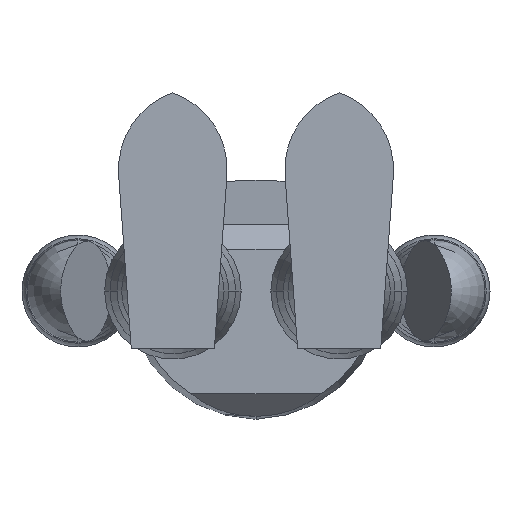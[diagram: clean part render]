
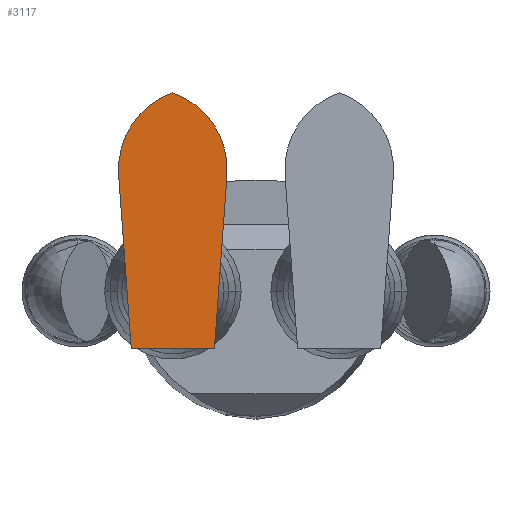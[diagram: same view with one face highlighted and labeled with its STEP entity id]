
A CAD part, front view. The second image highlights one B-rep face of the part: STEP entity #3117.
In plain terms, the highlighted planar face has unit normal (0, -1, 0).
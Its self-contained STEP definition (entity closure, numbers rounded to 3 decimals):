
#314 = CARTESIAN_POINT ( 'NONE',  ( -103.952, -63.25, -48.683 ) ) ;
#315 = CARTESIAN_POINT ( 'NONE',  ( -103.952, -63.25, 48.683 ) ) ;
#316 = CARTESIAN_POINT ( 'NONE',  ( 51.75, -63.25, 37.375 ) ) ;
#421 = CARTESIAN_POINT ( 'NONE',  ( 51.75, -63.25, -37.375 ) ) ;
#451 = DIRECTION ( 'NONE',  ( 0., 0., 1. ) ) ;
#452 = VECTOR ( 'NONE', #451, 1000. ) ;
#453 = CARTESIAN_POINT ( 'NONE',  ( 51.75, -63.25, 0. ) ) ;
#454 = LINE ( 'NONE', #453, #452 ) ;
#460 = DIRECTION ( 'NONE',  ( 0., 0., -1. ) ) ;
#461 = DIRECTION ( 'NONE',  ( 0., 1., 0. ) ) ;
#462 = CARTESIAN_POINT ( 'NONE',  ( -109.25, -63.25, -24.268 ) ) ;
#463 = AXIS2_PLACEMENT_3D ( 'NONE', #462, #461, #460 ) ;
#464 = CIRCLE ( 'NONE', #463, 73.143 ) ;
#466 = CARTESIAN_POINT ( 'NONE',  ( -178.25, -63.25, 0. ) ) ;
#467 = DIRECTION ( 'NONE',  ( 0., 0., 1. ) ) ;
#468 = DIRECTION ( 'NONE',  ( 0., -1., 0. ) ) ;
#469 = CARTESIAN_POINT ( 'NONE',  ( -109.25, -63.25, 24.268 ) ) ;
#470 = AXIS2_PLACEMENT_3D ( 'NONE', #469, #468, #467 ) ;
#471 = DIRECTION ( 'NONE',  ( 0., 0., 1. ) ) ;
#472 = DIRECTION ( 'NONE',  ( 0., 1., 0. ) ) ;
#473 = AXIS2_PLACEMENT_3D ( 'NONE', #475, #472, #471 ) ;
#474 = CIRCLE ( 'NONE', #470, 73.143 ) ;
#475 = CARTESIAN_POINT ( 'NONE',  ( -109.25, -63.25, 24.268 ) ) ;
#476 = PLANE ( 'NONE',  #473 ) ;
#477 = FACE_OUTER_BOUND ( 'NONE', #3116, .T. ) ;
#503 = DIRECTION ( 'NONE',  ( 0.997, 0., -0.072 ) ) ;
#504 = VECTOR ( 'NONE', #503, 1000. ) ;
#505 = CARTESIAN_POINT ( 'NONE',  ( 51.75, -63.25, 37.375 ) ) ;
#506 = LINE ( 'NONE', #505, #504 ) ;
#507 = DIRECTION ( 'NONE',  ( 0.997, 0., 0.072 ) ) ;
#508 = VECTOR ( 'NONE', #507, 1000. ) ;
#509 = CARTESIAN_POINT ( 'NONE',  ( 51.75, -63.25, -37.375 ) ) ;
#510 = LINE ( 'NONE', #509, #508 ) ;
#3090 = VERTEX_POINT ( 'NONE', #421 ) ;
#3095 = EDGE_CURVE ( 'NONE', #3112, #3090, #510, .T. ) ;
#3097 = EDGE_CURVE ( 'NONE', #3111, #3110, #506, .T. ) ;
#3110 = VERTEX_POINT ( 'NONE', #316 ) ;
#3111 = VERTEX_POINT ( 'NONE', #315 ) ;
#3112 = VERTEX_POINT ( 'NONE', #314 ) ;
#3116 = EDGE_LOOP ( 'NONE', ( #3152, #3150, #3157, #3156, #3154 ) ) ;
#3117 = ADVANCED_FACE ( 'NONE', ( #477 ), #476, .F. ) ;
#3119 = EDGE_CURVE ( 'NONE', #3120, #3112, #474, .T. ) ;
#3120 = VERTEX_POINT ( 'NONE', #466 ) ;
#3121 = EDGE_CURVE ( 'NONE', #3120, #3111, #464, .T. ) ;
#3127 = EDGE_CURVE ( 'NONE', #3090, #3110, #454, .T. ) ;
#3150 = ORIENTED_EDGE ( 'NONE', *, *, #3097, .F. ) ;
#3152 = ORIENTED_EDGE ( 'NONE', *, *, #3127, .T. ) ;
#3154 = ORIENTED_EDGE ( 'NONE', *, *, #3095, .T. ) ;
#3156 = ORIENTED_EDGE ( 'NONE', *, *, #3119, .T. ) ;
#3157 = ORIENTED_EDGE ( 'NONE', *, *, #3121, .F. ) ;
